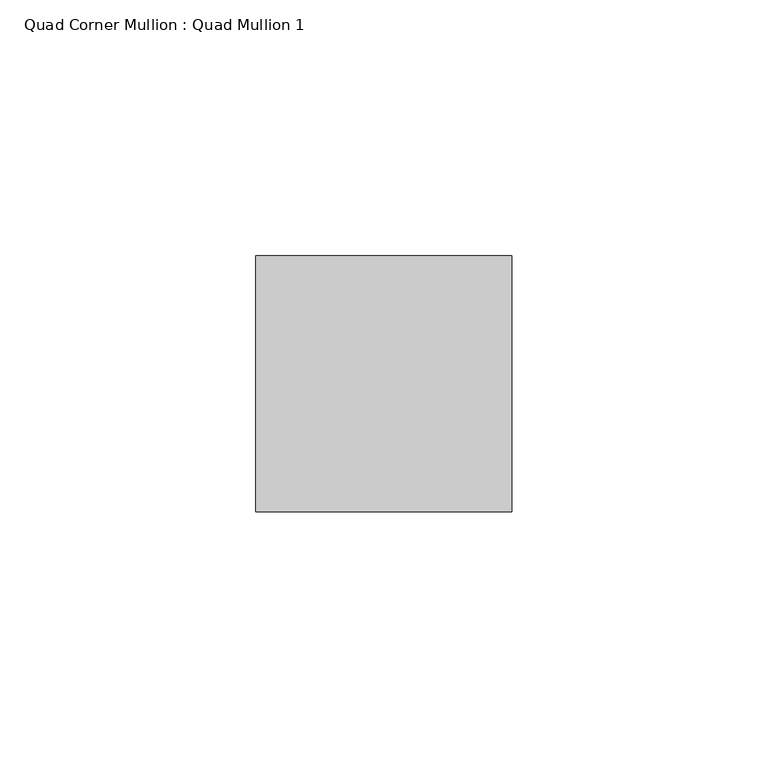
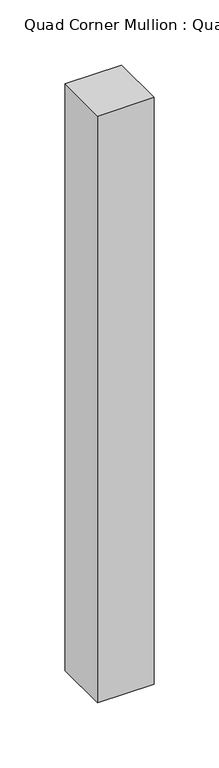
"""IFC4 building model written with IfcOpenShell, lengths in millimetres: member geometry, Quad Corner Mullion : Quad Mullion 1."""

import ifcopenshell
import ifcopenshell.guid

model = None  # the IFC model being written
_history = None  # IfcOwnerHistory: only IFC2X3 demands one
_inside = {}  # id of a spatial element -> (the spatial element, [elements in it])
_under = {}  # id of a project, library or spatial element -> (it, [spatial elements below it])
_declared = {}  # id of a project -> (the project, [libraries it declares])
_typed = {}  # id of a type object -> (the type object, [elements of that type])
_made_of = {}  # id of a material, layer set ... -> (it, [elements and type objects made of it])


def new_model(schema):
    """Start an empty IFC model of exactly this schema.

    Asked for "IFC4X3", IfcOpenShell would pick the latest addendum, in which some entities
    have other attributes; the version numbers below select the first issue.
    IFC2X3 requires an IfcOwnerHistory on every rooted entity: one is made here for all.
    """
    global model, _history
    if schema == "IFC4X3":
        model = ifcopenshell.file(schema_version=(4, 3, 0, 0))
    else:
        model = ifcopenshell.file(schema=schema)
    _inside.clear()
    _under.clear()
    _declared.clear()
    _typed.clear()
    _made_of.clear()
    _history = None
    if model.schema == "IFC2X3":
        org = make("IfcOrganization", Name="unknown")
        user = make(
            "IfcPersonAndOrganization",
            ThePerson=make("IfcPerson", FamilyName="unknown"),
            TheOrganization=org,
        )
        app = make(
            "IfcApplication",
            ApplicationDeveloper=org,
            Version="unknown",
            ApplicationFullName="unknown",
            ApplicationIdentifier="unknown",
        )
        _history = make(
            "IfcOwnerHistory",
            OwningUser=user,
            OwningApplication=app,
            ChangeAction="ADDED",
            CreationDate=0,
        )
    return model


def make(cls, **values):
    """One entity of the class cls with the attributes given. An attribute that is None is left unset."""
    return model.create_entity(
        cls, **{name: value for name, value in values.items() if value is not None}
    )


def rooted(cls, **values):
    """An entity with a GlobalId (a new one), such as an element, a storey or a relation."""
    return make(cls, GlobalId=ifcopenshell.guid.new(), OwnerHistory=_history, **values)


def si_unit(unit_type, name, prefix=None):
    """IfcSIUnit, for example si_unit("LENGTHUNIT", "METRE", prefix="MILLI")."""
    return make("IfcSIUnit", UnitType=unit_type, Prefix=prefix, Name=name)


def assignment(units):
    """IfcUnitAssignment: the units of a project."""
    return None if units is None else make("IfcUnitAssignment", Units=units)


def point(xyz):
    """IfcCartesianPoint."""
    return None if xyz is None else make("IfcCartesianPoint", Coordinates=xyz)


def direction(xyz):
    """IfcDirection."""
    return None if xyz is None else make("IfcDirection", DirectionRatios=xyz)


def frame(location, z_axis=None, x_axis=None):
    """IfcAxis2Placement3D, a coordinate frame: its origin and axes. An axis left out is left unset."""
    return make(
        "IfcAxis2Placement3D",
        Location=point(location),
        Axis=direction(z_axis),
        RefDirection=direction(x_axis),
    )


def origin():
    """The frame at (0, 0, 0) with its axes left unset."""
    return frame((0.0, 0.0, 0.0))


def place(relative_to, where):
    """IfcLocalPlacement: puts the frame where relative to a parent placement (None: the world)."""
    return make(
        "IfcLocalPlacement", PlacementRelTo=relative_to, RelativePlacement=where
    )


def context(
    kind, dimensions, precision=None, world=None, true_north=None, identifier=None
):
    """IfcGeometricRepresentationContext, for example the 3D "Model" context."""
    return make(
        "IfcGeometricRepresentationContext",
        ContextIdentifier=identifier,
        ContextType=kind,
        CoordinateSpaceDimension=dimensions,
        Precision=precision,
        WorldCoordinateSystem=world,
        TrueNorth=true_north,
    )


def project(units=None, contexts=None):
    """IfcProject with its units and contexts."""
    return rooted(
        "IfcProject",
        Name="project",
        RepresentationContexts=contexts,
        UnitsInContext=assignment(units),
    )


def spatial(cls, under=None, at=None, **own):
    """A site, building, storey or space (cls), placed at a placement, below another one or the project."""
    s = rooted(cls, ObjectPlacement=at, **own)
    if under is not None:
        _under.setdefault(under.id(), (under, []))[1].append(s)
    return s


def polyline(points):
    """IfcPolyline through the points."""
    return make("IfcPolyline", Points=[point(p) for p in points])


def outline(outer, holes=None, kind="AREA"):
    """IfcArbitraryClosedProfileDef: a profile drawn as a closed curve; with holes, ...WithVoids."""
    if holes is None:
        return make("IfcArbitraryClosedProfileDef", ProfileType=kind, OuterCurve=outer)
    return make(
        "IfcArbitraryProfileDefWithVoids",
        ProfileType=kind,
        OuterCurve=outer,
        InnerCurves=holes,
    )


def extrude(swept, where, along, depth):
    """IfcExtrudedAreaSolid: the profile swept, set in the frame where, extruded along a direction by depth."""
    return make(
        "IfcExtrudedAreaSolid",
        SweptArea=swept,
        Position=where,
        ExtrudedDirection=direction(along),
        Depth=depth,
    )


def shape(context_of_items, identifier, shape_type, items):
    """IfcShapeRepresentation: the items that make up one representation, for example the "Body"."""
    return make(
        "IfcShapeRepresentation",
        ContextOfItems=context_of_items,
        RepresentationIdentifier=identifier,
        RepresentationType=shape_type,
        Items=items,
    )


def source(mapping_origin, context_of_items, identifier, shape_type, items):
    """IfcRepresentationMap: a shape defined once, which mapped items show again and again."""
    return make(
        "IfcRepresentationMap",
        MappingOrigin=mapping_origin,
        MappedRepresentation=shape(context_of_items, identifier, shape_type, items),
    )


def transform(
    local_origin,
    x_axis=None,
    y_axis=None,
    z_axis=None,
    scale=None,
    scale2=None,
    scale3=None,
    uniform=True,
):
    """IfcCartesianTransformationOperator3D, or its non-uniform kind. x_axis, y_axis, z_axis: its Axis1, 2, 3."""
    if uniform:
        return make(
            "IfcCartesianTransformationOperator3D",
            Axis1=direction(x_axis),
            Axis2=direction(y_axis),
            LocalOrigin=point(local_origin),
            Scale=scale,
            Axis3=direction(z_axis),
        )
    return make(
        "IfcCartesianTransformationOperator3DnonUniform",
        Axis1=direction(x_axis),
        Axis2=direction(y_axis),
        LocalOrigin=point(local_origin),
        Scale=scale,
        Axis3=direction(z_axis),
        Scale2=scale2,
        Scale3=scale3,
    )


def mapped(mapping_source, mapping_target):
    """IfcMappedItem: shows the shape of a source again, moved by a transform."""
    return make(
        "IfcMappedItem", MappingSource=mapping_source, MappingTarget=mapping_target
    )


def made_of(thing, what):
    """Note that an element or type object is made of a material, layer set ...; save() writes the relation."""
    if what is not None:
        _made_of.setdefault(what.id(), (what, []))[1].append(thing)
    return thing


def element(
    cls,
    number,
    at=None,
    inside=None,
    cuts=None,
    type_object=None,
    material=None,
    context=None,
    identifier="Body",
    shape_type=None,
    held_by="IfcProductDefinitionShape",
    body=None,
    shapes=None,
    **own,
):
    """One element of the class cls, such as IfcWall. Its Tag is "e" and its number.

    at: its placement. inside: the storey or other place that contains it. cuts: it is an
    opening in that element (IfcRelVoidsElement). A single representation is given by context,
    identifier, shape_type and body (its items); several are given by shapes. held_by: the class
    of the entity that holds the representations. save() writes the other relations.
    """
    e = rooted(cls, Tag="e%d" % number, ObjectPlacement=at, **own)
    if body is not None:
        shapes = [shape(context, identifier, shape_type, body)]
    if shapes is not None:
        e.Representation = make(held_by, Representations=shapes)
    if inside is not None:
        _inside.setdefault(inside.id(), (inside, []))[1].append(e)
    if cuts is not None:
        rooted(
            "IfcRelVoidsElement", RelatingBuildingElement=cuts, RelatedOpeningElement=e
        )
    if type_object is not None:
        _typed.setdefault(type_object.id(), (type_object, []))[1].append(e)
    return made_of(e, material)


def aggregate(whole, parts):
    """IfcRelAggregates: a whole, such as a stair, and the parts it consists of."""
    return rooted("IfcRelAggregates", RelatingObject=whole, RelatedObjects=parts)


def save(model, path):
    """Write the relations noted so far, then the file.

    IfcRelAggregates (storeys below a building ...), IfcRelContainedInSpatialStructure (elements
    in a storey), IfcRelDefinesByType, IfcRelAssociatesMaterial and IfcRelDeclares: one each for
    every whole, place, type object, material and project.
    """
    for whole, parts in _under.values():
        aggregate(whole, parts)
    for where, things in _inside.values():
        rooted(
            "IfcRelContainedInSpatialStructure",
            RelatedElements=things,
            RelatingStructure=where,
        )
    for kind, things in _typed.values():
        rooted("IfcRelDefinesByType", RelatedObjects=things, RelatingType=kind)
    for what, things in _made_of.values():
        rooted("IfcRelAssociatesMaterial", RelatedObjects=things, RelatingMaterial=what)
    for by, libraries in _declared.values():
        rooted("IfcRelDeclares", RelatingContext=by, RelatedDefinitions=libraries)
    model.write(path)


def quad_corner_mullion_quad_mullion_1_1dc5a8d1(model_context):
    return source(origin(), model_context, "Body", "SweptSolid", [
        extrude(outline(polyline([(25.0, -25.0), (-25.0, -25.0), (-25.0, 25.0), (25.0, 25.0), (25.0, -25.0)])), frame((0.0, 0.0, -550.0), z_axis=(0.0, 0.0, 1.0), x_axis=(1.0, 0.0, 0.0)), (0.0, 0.0, 1.0), 550.0),
    ])


if __name__ == "__main__":
    model = new_model("IFC4")
    model_context = context("Model", 3, world=origin())
    ifc_project = project(units=[si_unit("LENGTHUNIT", "METRE", prefix="MILLI")], contexts=[model_context])
    site = spatial("IfcSite", under=ifc_project)
    building = spatial("IfcBuilding", under=site)
    placement = place(None, origin())
    quad_corner_mullion_quad_mullion_1_shape = quad_corner_mullion_quad_mullion_1_1dc5a8d1(model_context)
    element("IfcMember", 1, ObjectType="Quad Corner Mullion : Quad Mullion 1", at=placement, inside=building, context=model_context, shape_type="MappedRepresentation", body=[
        mapped(quad_corner_mullion_quad_mullion_1_shape, transform((0.0, 0.0, 0.0), x_axis=(1.0, 0.0, 0.0), y_axis=(0.0, 1.0, 0.0), z_axis=(0.0, 0.0, 1.0))),
    ])
    save(model, "model.ifc")
